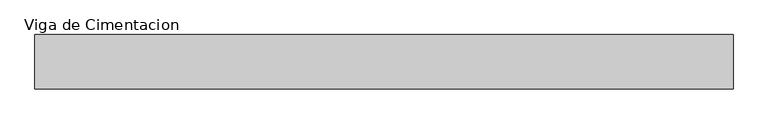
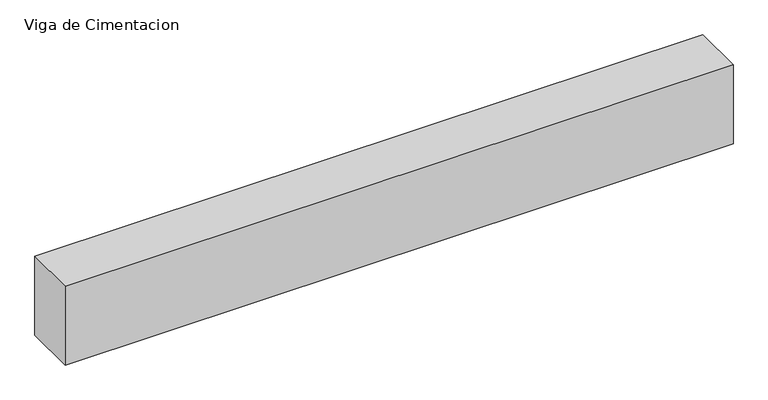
"""IFC4 building model written with IfcOpenShell, lengths in millimetres: beam geometry, Viga de Cimentacion : EVC_Viga de Cimentacion 25x50 cm."""

from ifc_helpers import new_model, si_unit, frame, origin, place, context, project, spatial, polyline, outline, extrude, source, transform, mapped, element, save


def viga_de_cimentacion_04f7b666(model_context):
    return source(origin(), model_context, "Body", "SweptSolid", [
        extrude(outline(polyline([(1987.5, 125.0), (1987.5, -125.0), (-1212.5, -125.0), (-1212.5, 125.0), (1987.5, 125.0)])), frame((0.0, 0.0, -400.0), z_axis=(0.0, 0.0, 1.0), x_axis=(1.0, 0.0, 0.0)), (0.0, 0.0, 1.0), 400.0),
    ])


if __name__ == "__main__":
    model = new_model("IFC4")
    model_context = context("Model", 3, world=origin())
    ifc_project = project(units=[si_unit("LENGTHUNIT", "METRE", prefix="MILLI")], contexts=[model_context])
    site = spatial("IfcSite", under=ifc_project)
    building = spatial("IfcBuilding", under=site)
    placement = place(None, origin())
    viga_de_cimentacion_shape = viga_de_cimentacion_04f7b666(model_context)
    element("IfcBeam", 1, ObjectType="Viga de Cimentacion : EVC_Viga de Cimentacion 25x50 cm", at=placement, inside=building, context=model_context, shape_type="MappedRepresentation", body=[
        mapped(viga_de_cimentacion_shape, transform((0.0, 0.0, 0.0), x_axis=(1.0, 0.0, 0.0), y_axis=(0.0, 1.0, 0.0), z_axis=(0.0, 0.0, 1.0))),
    ])
    save(model, "model.ifc")
